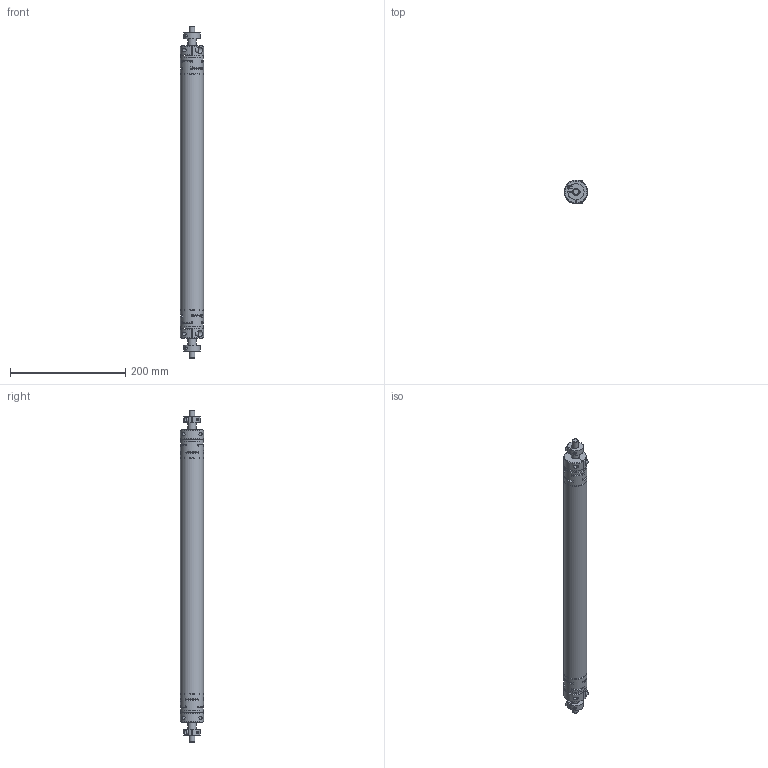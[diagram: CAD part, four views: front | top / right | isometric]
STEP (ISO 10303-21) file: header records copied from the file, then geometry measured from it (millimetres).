
FILE_DESCRIPTION(/* description */ ('Dummy'),/* implementation_level */ '2;1');
FILE_NAME(/* name */ 'D:\InventorWorkspace2019\CAD\_lokale konstruktionen\VerbWelleHLR070\0232.910-0600.stp',/* time_stamp */ '2020-04-14T16:12:12+02:00',/* author */ ('AR64535'),/* organization */ (''),/* preprocessor_version */ 'ST-DEVELOPER v17.2',/* originating_system */ 'Autodesk Inventor 2019',/* authorisation */ '');
FILE_SCHEMA (('AUTOMOTIVE_DESIGN { 1 0 10303 214 3 1 1 }'));
Length unit declared in the file: millimetre
Products named in the file (8): 0241910-XXXX_HLR070; 0241.910-XXXX; ROTEX GS19 ZR3_Klemmnabe D14; ROTEX GS19 ZR3_Rohr; 0232.007-02; 0231.029; 0231.012-01; 130-302319
Assembly tree (11 placements, depth 3):
  0241910-XXXX_HLR070
    0241.910-XXXX
      ROTEX GS19 ZR3_Klemmnabe D14  x2
      ROTEX GS19 ZR3_Rohr
    0232.007-02
      0231.029  x2
      0231.012-01  x2
      130-302319  x2
Bounding box: 40 x 40 x 576 mm (x, y, z)
Volume: 255587.1 mm3; surface area: 142739.9 mm2
Topology: 9 solids, 9 shells, 430 faces, 1260 edges, 858 vertices
Faces by surface type: cylinder 178, plane 156, cone 92, torus 4
Full cylindrical faces by diameter (mm): 3 x12, 4.134 x2, 5 x2, 5.3 x2, 6 x4, 6.6 x8, 8.5 x2, 10 x6, 14 x4, 18 x4, 22 x2, 34 x1, 39.4 x2, 40 x3
Entity records: 8244 total; most frequent: CARTESIAN_POINT 2097, ORIENTED_EDGE 1268, DIRECTION 1244, EDGE_CURVE 634, AXIS2_PLACEMENT_3D 516, VERTEX_POINT 432, CIRCLE 279, EDGE_LOOP 256
